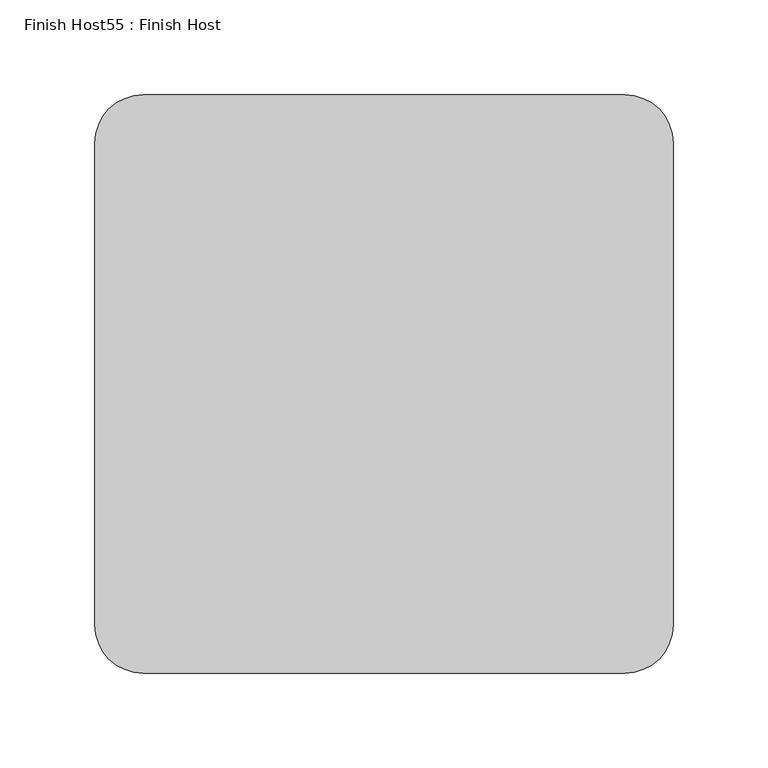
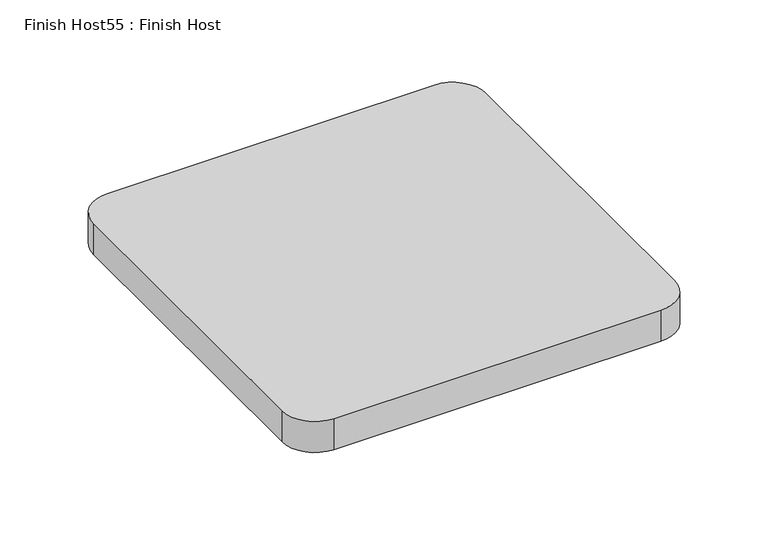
"""IFC4 building model written with IfcOpenShell, lengths in millimetres: proxy geometry, Finish Host55 : Finish Host."""

import ifcopenshell
import ifcopenshell.guid

model = None  # the IFC model being written
_history = None  # IfcOwnerHistory: only IFC2X3 demands one
_inside = {}  # id of a spatial element -> (the spatial element, [elements in it])
_under = {}  # id of a project, library or spatial element -> (it, [spatial elements below it])
_declared = {}  # id of a project -> (the project, [libraries it declares])
_typed = {}  # id of a type object -> (the type object, [elements of that type])
_made_of = {}  # id of a material, layer set ... -> (it, [elements and type objects made of it])


def new_model(schema):
    """Start an empty IFC model of exactly this schema.

    Asked for "IFC4X3", IfcOpenShell would pick the latest addendum, in which some entities
    have other attributes; the version numbers below select the first issue.
    IFC2X3 requires an IfcOwnerHistory on every rooted entity: one is made here for all.
    """
    global model, _history
    if schema == "IFC4X3":
        model = ifcopenshell.file(schema_version=(4, 3, 0, 0))
    else:
        model = ifcopenshell.file(schema=schema)
    _inside.clear()
    _under.clear()
    _declared.clear()
    _typed.clear()
    _made_of.clear()
    _history = None
    if model.schema == "IFC2X3":
        org = make("IfcOrganization", Name="unknown")
        user = make(
            "IfcPersonAndOrganization",
            ThePerson=make("IfcPerson", FamilyName="unknown"),
            TheOrganization=org,
        )
        app = make(
            "IfcApplication",
            ApplicationDeveloper=org,
            Version="unknown",
            ApplicationFullName="unknown",
            ApplicationIdentifier="unknown",
        )
        _history = make(
            "IfcOwnerHistory",
            OwningUser=user,
            OwningApplication=app,
            ChangeAction="ADDED",
            CreationDate=0,
        )
    return model


def make(cls, **values):
    """One entity of the class cls with the attributes given. An attribute that is None is left unset."""
    return model.create_entity(
        cls, **{name: value for name, value in values.items() if value is not None}
    )


def rooted(cls, **values):
    """An entity with a GlobalId (a new one), such as an element, a storey or a relation."""
    return make(cls, GlobalId=ifcopenshell.guid.new(), OwnerHistory=_history, **values)


def si_unit(unit_type, name, prefix=None):
    """IfcSIUnit, for example si_unit("LENGTHUNIT", "METRE", prefix="MILLI")."""
    return make("IfcSIUnit", UnitType=unit_type, Prefix=prefix, Name=name)


def assignment(units):
    """IfcUnitAssignment: the units of a project."""
    return None if units is None else make("IfcUnitAssignment", Units=units)


def point(xyz):
    """IfcCartesianPoint."""
    return None if xyz is None else make("IfcCartesianPoint", Coordinates=xyz)


def direction(xyz):
    """IfcDirection."""
    return None if xyz is None else make("IfcDirection", DirectionRatios=xyz)


def frame(location, z_axis=None, x_axis=None):
    """IfcAxis2Placement3D, a coordinate frame: its origin and axes. An axis left out is left unset."""
    return make(
        "IfcAxis2Placement3D",
        Location=point(location),
        Axis=direction(z_axis),
        RefDirection=direction(x_axis),
    )


def frame_2d(location, x_axis=None):
    """IfcAxis2Placement2D, a coordinate frame in the plane: its origin and x axis."""
    return make(
        "IfcAxis2Placement2D", Location=point(location), RefDirection=direction(x_axis)
    )


def origin():
    """The frame at (0, 0, 0) with its axes left unset."""
    return frame((0.0, 0.0, 0.0))


def origin_with_axes():
    """The frame at (0, 0, 0) with the z axis (0, 0, 1) and the x axis (1, 0, 0) written out."""
    return frame((0.0, 0.0, 0.0), z_axis=(0.0, 0.0, 1.0), x_axis=(1.0, 0.0, 0.0))


def place(relative_to, where):
    """IfcLocalPlacement: puts the frame where relative to a parent placement (None: the world)."""
    return make(
        "IfcLocalPlacement", PlacementRelTo=relative_to, RelativePlacement=where
    )


def context(
    kind, dimensions, precision=None, world=None, true_north=None, identifier=None
):
    """IfcGeometricRepresentationContext, for example the 3D "Model" context."""
    return make(
        "IfcGeometricRepresentationContext",
        ContextIdentifier=identifier,
        ContextType=kind,
        CoordinateSpaceDimension=dimensions,
        Precision=precision,
        WorldCoordinateSystem=world,
        TrueNorth=true_north,
    )


def project(units=None, contexts=None):
    """IfcProject with its units and contexts."""
    return rooted(
        "IfcProject",
        Name="project",
        RepresentationContexts=contexts,
        UnitsInContext=assignment(units),
    )


def spatial(cls, under=None, at=None, **own):
    """A site, building, storey or space (cls), placed at a placement, below another one or the project."""
    s = rooted(cls, ObjectPlacement=at, **own)
    if under is not None:
        _under.setdefault(under.id(), (under, []))[1].append(s)
    return s


def polyline(points):
    """IfcPolyline through the points."""
    return make("IfcPolyline", Points=[point(p) for p in points])


def circle_curve(where, radius):
    """IfcCircle in the frame where."""
    return make("IfcCircle", Position=where, Radius=radius)


def trimmed(basis, trim1, trim2, sense, master):
    """IfcTrimmedCurve: the piece of a basis curve between two trims."""
    return make(
        "IfcTrimmedCurve",
        BasisCurve=basis,
        Trim1=trim1,
        Trim2=trim2,
        SenseAgreement=sense,
        MasterRepresentation=master,
    )


def segment(curve, same_sense, transition):
    """IfcCompositeCurveSegment."""
    return make(
        "IfcCompositeCurveSegment",
        Transition=transition,
        SameSense=same_sense,
        ParentCurve=curve,
    )


def composite_curve(segments, self_intersect=None):
    """IfcCompositeCurve: segments joined end to end."""
    return make("IfcCompositeCurve", Segments=segments, SelfIntersect=self_intersect)


def outline(outer, holes=None, kind="AREA"):
    """IfcArbitraryClosedProfileDef: a profile drawn as a closed curve; with holes, ...WithVoids."""
    if holes is None:
        return make("IfcArbitraryClosedProfileDef", ProfileType=kind, OuterCurve=outer)
    return make(
        "IfcArbitraryProfileDefWithVoids",
        ProfileType=kind,
        OuterCurve=outer,
        InnerCurves=holes,
    )


def extrude(swept, where, along, depth):
    """IfcExtrudedAreaSolid: the profile swept, set in the frame where, extruded along a direction by depth."""
    return make(
        "IfcExtrudedAreaSolid",
        SweptArea=swept,
        Position=where,
        ExtrudedDirection=direction(along),
        Depth=depth,
    )


def shape(context_of_items, identifier, shape_type, items):
    """IfcShapeRepresentation: the items that make up one representation, for example the "Body"."""
    return make(
        "IfcShapeRepresentation",
        ContextOfItems=context_of_items,
        RepresentationIdentifier=identifier,
        RepresentationType=shape_type,
        Items=items,
    )


def source(mapping_origin, context_of_items, identifier, shape_type, items):
    """IfcRepresentationMap: a shape defined once, which mapped items show again and again."""
    return make(
        "IfcRepresentationMap",
        MappingOrigin=mapping_origin,
        MappedRepresentation=shape(context_of_items, identifier, shape_type, items),
    )


def transform(
    local_origin,
    x_axis=None,
    y_axis=None,
    z_axis=None,
    scale=None,
    scale2=None,
    scale3=None,
    uniform=True,
):
    """IfcCartesianTransformationOperator3D, or its non-uniform kind. x_axis, y_axis, z_axis: its Axis1, 2, 3."""
    if uniform:
        return make(
            "IfcCartesianTransformationOperator3D",
            Axis1=direction(x_axis),
            Axis2=direction(y_axis),
            LocalOrigin=point(local_origin),
            Scale=scale,
            Axis3=direction(z_axis),
        )
    return make(
        "IfcCartesianTransformationOperator3DnonUniform",
        Axis1=direction(x_axis),
        Axis2=direction(y_axis),
        LocalOrigin=point(local_origin),
        Scale=scale,
        Axis3=direction(z_axis),
        Scale2=scale2,
        Scale3=scale3,
    )


def mapped(mapping_source, mapping_target):
    """IfcMappedItem: shows the shape of a source again, moved by a transform."""
    return make(
        "IfcMappedItem", MappingSource=mapping_source, MappingTarget=mapping_target
    )


def made_of(thing, what):
    """Note that an element or type object is made of a material, layer set ...; save() writes the relation."""
    if what is not None:
        _made_of.setdefault(what.id(), (what, []))[1].append(thing)
    return thing


def element(
    cls,
    number,
    at=None,
    inside=None,
    cuts=None,
    type_object=None,
    material=None,
    context=None,
    identifier="Body",
    shape_type=None,
    held_by="IfcProductDefinitionShape",
    body=None,
    shapes=None,
    **own,
):
    """One element of the class cls, such as IfcWall. Its Tag is "e" and its number.

    at: its placement. inside: the storey or other place that contains it. cuts: it is an
    opening in that element (IfcRelVoidsElement). A single representation is given by context,
    identifier, shape_type and body (its items); several are given by shapes. held_by: the class
    of the entity that holds the representations. save() writes the other relations.
    """
    e = rooted(cls, Tag="e%d" % number, ObjectPlacement=at, **own)
    if body is not None:
        shapes = [shape(context, identifier, shape_type, body)]
    if shapes is not None:
        e.Representation = make(held_by, Representations=shapes)
    if inside is not None:
        _inside.setdefault(inside.id(), (inside, []))[1].append(e)
    if cuts is not None:
        rooted(
            "IfcRelVoidsElement", RelatingBuildingElement=cuts, RelatedOpeningElement=e
        )
    if type_object is not None:
        _typed.setdefault(type_object.id(), (type_object, []))[1].append(e)
    return made_of(e, material)


def aggregate(whole, parts):
    """IfcRelAggregates: a whole, such as a stair, and the parts it consists of."""
    return rooted("IfcRelAggregates", RelatingObject=whole, RelatedObjects=parts)


def save(model, path):
    """Write the relations noted so far, then the file.

    IfcRelAggregates (storeys below a building ...), IfcRelContainedInSpatialStructure (elements
    in a storey), IfcRelDefinesByType, IfcRelAssociatesMaterial and IfcRelDeclares: one each for
    every whole, place, type object, material and project.
    """
    for whole, parts in _under.values():
        aggregate(whole, parts)
    for where, things in _inside.values():
        rooted(
            "IfcRelContainedInSpatialStructure",
            RelatedElements=things,
            RelatingStructure=where,
        )
    for kind, things in _typed.values():
        rooted("IfcRelDefinesByType", RelatedObjects=things, RelatingType=kind)
    for what, things in _made_of.values():
        rooted("IfcRelAssociatesMaterial", RelatedObjects=things, RelatingMaterial=what)
    for by, libraries in _declared.values():
        rooted("IfcRelDeclares", RelatingContext=by, RelatedDefinitions=libraries)
    model.write(path)


def finish_host55_finish_host_c2976ace(model_context):
    return source(origin(), model_context, "Body", "SweptSolid", [
        extrude(outline(composite_curve([segment(polyline([(10690.3478493, 1206.8122951), (10690.3478493, 1460.8122951)]), True, "CONTINUOUS"), segment(trimmed(circle_curve(frame_2d((10715.7478493, 1460.8122951)), 25.4), [point((10690.3478493, 1460.8122951))], [point((10715.7478493, 1486.2122951))], False, "CARTESIAN"), True, "CONTINUOUS"), segment(polyline([(10715.7478493, 1486.2122951), (10969.7478493, 1486.2122951)]), True, "CONTINUOUS"), segment(trimmed(circle_curve(frame_2d((10969.7478493, 1460.8122951)), 25.4), [point((10969.7478493, 1486.2122951))], [point((10995.1478493, 1460.8122951))], False, "CARTESIAN"), True, "CONTINUOUS"), segment(polyline([(10995.1478493, 1460.8122951), (10995.1478493, 1206.8122951)]), True, "CONTINUOUS"), segment(trimmed(circle_curve(frame_2d((10969.7478493, 1206.8122951)), 25.4), [point((10995.1478493, 1206.8122951))], [point((10969.7478493, 1181.4122951))], False, "CARTESIAN"), True, "CONTINUOUS"), segment(polyline([(10969.7478493, 1181.4122951), (10715.7478493, 1181.4122951)]), True, "CONTINUOUS"), segment(trimmed(circle_curve(frame_2d((10715.7478493, 1206.8122951)), 25.4), [point((10715.7478493, 1181.4122951))], [point((10690.3478493, 1206.8122951))], False, "CARTESIAN"), True, "CONTINUOUS")], self_intersect=False)), origin_with_axes(), (0.0, 0.0, 1.0), 25.4),
    ])


if __name__ == "__main__":
    model = new_model("IFC4")
    model_context = context("Model", 3, world=origin())
    ifc_project = project(units=[si_unit("LENGTHUNIT", "METRE", prefix="MILLI")], contexts=[model_context])
    site = spatial("IfcSite", under=ifc_project)
    building = spatial("IfcBuilding", under=site)
    placement = place(None, origin())
    finish_host55_finish_host_shape = finish_host55_finish_host_c2976ace(model_context)
    element("IfcBuildingElementProxy", 1, Name="Finish Host55 : Finish Host", ObjectType="Finish Host55 : Finish Host", at=placement, inside=building, context=model_context, shape_type="MappedRepresentation", body=[
        mapped(finish_host55_finish_host_shape, transform((0.0, 0.0, 0.0), x_axis=(1.0, 0.0, 0.0), y_axis=(0.0, 1.0, 0.0), z_axis=(0.0, 0.0, 1.0))),
    ])
    save(model, "model.ifc")
